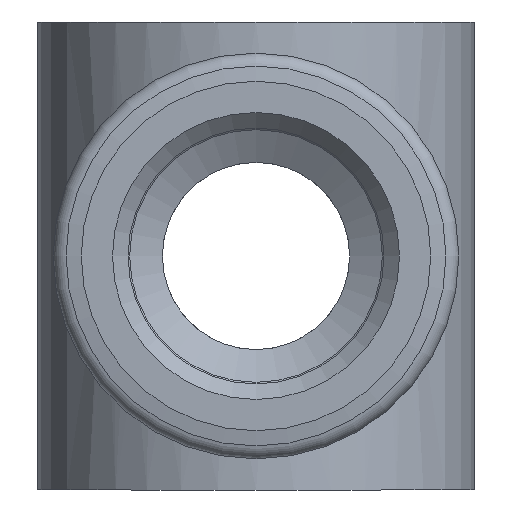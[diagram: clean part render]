
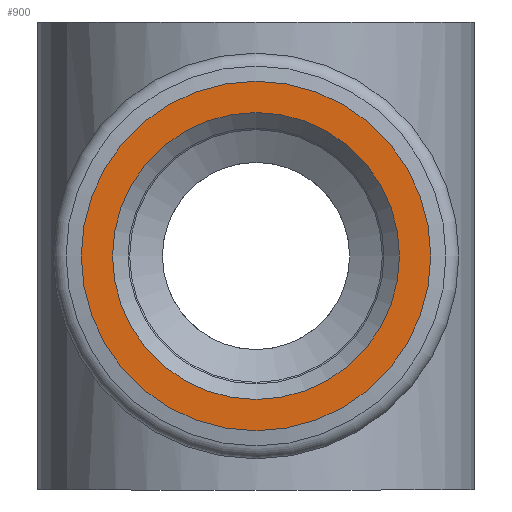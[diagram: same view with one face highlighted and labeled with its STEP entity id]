
A CAD part, left-side view. The second image highlights one B-rep face of the part: STEP entity #900.
In plain terms, the highlighted planar face has unit normal (-1, 0, 0).
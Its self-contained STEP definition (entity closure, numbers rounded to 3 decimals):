
#900=ADVANCED_FACE('', (#910,#920), #930, .T.);
#4250=AXIS2_PLACEMENT_3D('Ax2Pl3d', #4260, #4270, #4280);
#4290=AXIS2_PLACEMENT_3D('Ax2Pl3d', #4300, #4310, #4320);
#4330=AXIS2_PLACEMENT_3D('Ax2Pl3d', #4340, #4350, #4360);
#4260=CARTESIAN_POINT('HicPkt', (1.952,11.382,
11.162));
#34620=CARTESIAN_POINT('', (1.952,16.982,11.162));
#4300=CARTESIAN_POINT('HicPkt', (1.952,16.982,
11.162));
#4340=CARTESIAN_POINT('HicPkt', (1.952,11.382,
11.162));
#34630=CARTESIAN_POINT('', (1.952,15.982,11.162));
#35240=CIRCLE('Circle', #4250, 5.6);
#35250=CIRCLE('Circle', #4330, 4.6);
#4270=DIRECTION('Axis', (-1.,0.,0.))
;
#4280=DIRECTION('RefDirection', (0.,
0.,-1.));
#4310=DIRECTION('Axis', (-1.,0.,0.))
;
#4320=DIRECTION('RefDirection', (0.,
0.,-1.));
#4350=DIRECTION('Axis', (-1.,0.,0.))
;
#4360=DIRECTION('RefDirection', (0.,
0.,-1.));
#37900=EDGE_CURVE('', #37910, #37910, #35240, .T.);
#37920=EDGE_CURVE('', #37930, #37930, #35250, .T.);
#39560=EDGE_LOOP('Edge_loop', (#39570));
#39580=EDGE_LOOP('Edge_loop', (#39590));
#920=FACE_BOUND('', #39580, .T.);
#910=FACE_OUTER_BOUND('Face_outer_bound', #39560, .T.);
#39570=ORIENTED_EDGE('', *, *, #37900, .T.);
#39590=ORIENTED_EDGE('', *, *, #37920, .F.);
#930=PLANE('Plane', #4290);
#37910=VERTEX_POINT('', #34620);
#37930=VERTEX_POINT('', #34630);
